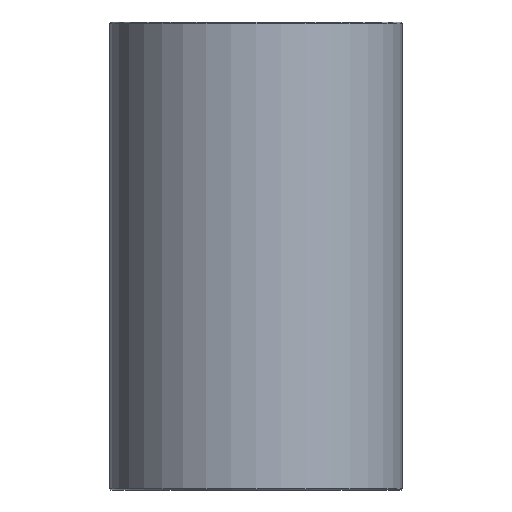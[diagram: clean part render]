
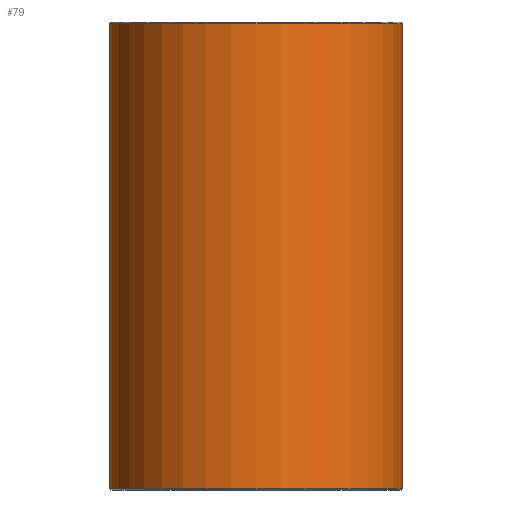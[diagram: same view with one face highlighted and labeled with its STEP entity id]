
A CAD part, front view. The second image highlights one B-rep face of the part: STEP entity #79.
In plain terms, the highlighted cylindrical face has radius 25 mm (diameter 50 mm), a full revolution.
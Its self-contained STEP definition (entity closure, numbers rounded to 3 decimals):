
#79=ADVANCED_FACE('',(#96,#97),#98,.T.);
#96=FACE_OUTER_BOUND('',#120,.T.);
#97=FACE_OUTER_BOUND('',#121,.T.);
#98=CYLINDRICAL_SURFACE('',#122,25.0);
#120=EDGE_LOOP('',(#152));
#121=EDGE_LOOP('',(#153));
#122=AXIS2_PLACEMENT_3D('',#154,#155,#156);
#152=ORIENTED_EDGE('',*,*,#178,.T.);
#153=ORIENTED_EDGE('',*,*,#177,.T.);
#154=CARTESIAN_POINT('',(0.,0.0,80.0));
#155=DIRECTION('',(0.0,0.0,-1.0));
#156=DIRECTION('',(-1.0,0.0,0.0));
#177=EDGE_CURVE('',#190,#190,#191,.T.);
#178=EDGE_CURVE('',#192,#192,#193,.F.);
#190=VERTEX_POINT('',#206);
#191=CIRCLE('',#207,25.0);
#192=VERTEX_POINT('',#208);
#193=CIRCLE('',#209,25.0);
#206=CARTESIAN_POINT('',(25.0,0.0,0.2));
#207=AXIS2_PLACEMENT_3D('',#227,#228,#229);
#208=CARTESIAN_POINT('',(25.0,0.,79.8));
#209=AXIS2_PLACEMENT_3D('',#230,#231,#232);
#227=CARTESIAN_POINT('',(0.,0.0,0.2));
#228=DIRECTION('',(0.0,0.0,1.0));
#229=DIRECTION('',(1.0,0.0,0.0));
#230=CARTESIAN_POINT('',(0.,0.0,79.8));
#231=DIRECTION('',(0.0,0.0,1.0));
#232=DIRECTION('',(1.0,0.0,0.0));
